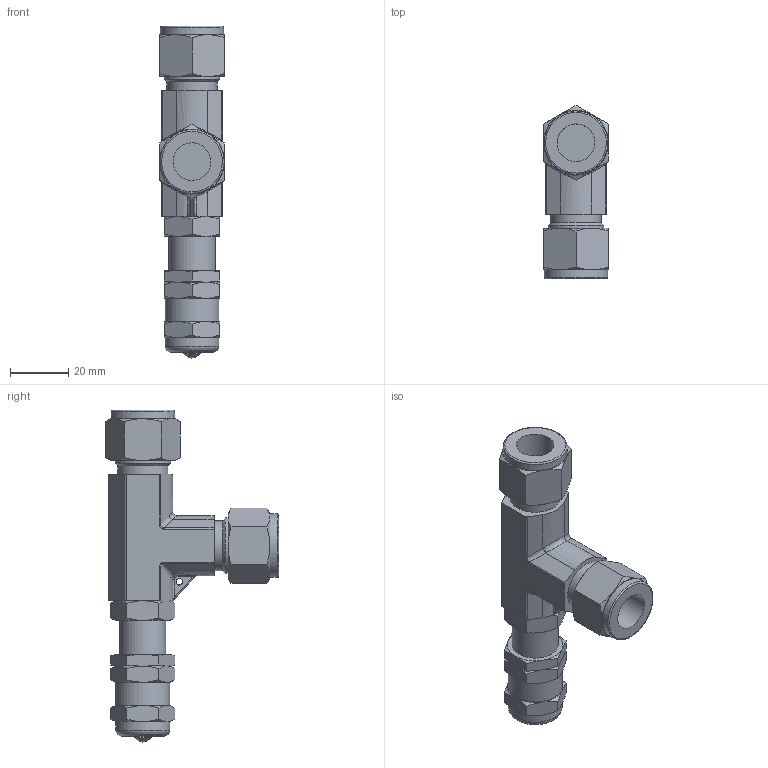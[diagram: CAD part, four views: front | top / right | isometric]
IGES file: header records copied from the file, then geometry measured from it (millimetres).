
Global section: file name: SRV-S8; native system: Autodesk Inventor 2016; preprocessor: unknown; author: 이승민,,11,0; organization: 20161227.102727; date: 20161229.080819; units: millimetre
Bounding box: 22.23 x 59.34 x 113.8 mm (x, y, z)
Volume: 39496.9 mm3; surface area: 17869.6 mm2
Topology: 5 solids, 5 shells, 251 faces, 599 edges, 381 vertices
Faces by surface type: bspline 251
